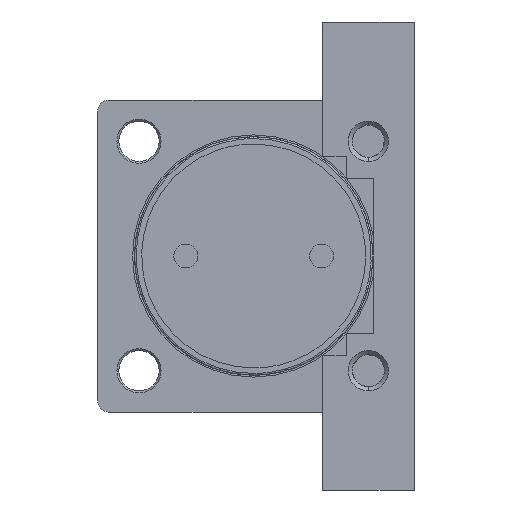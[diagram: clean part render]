
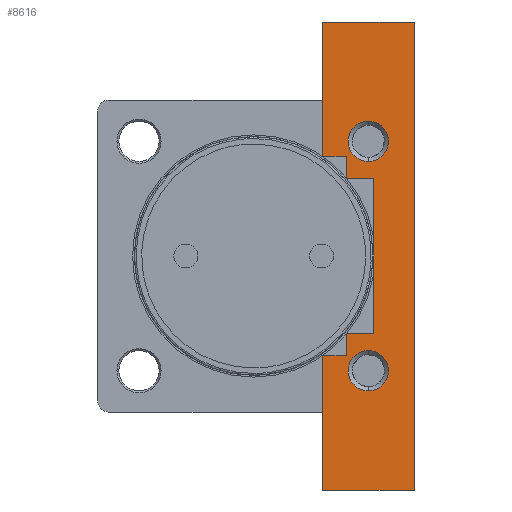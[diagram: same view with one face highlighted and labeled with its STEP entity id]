
A CAD part, left-side view. The second image highlights one B-rep face of the part: STEP entity #8616.
In plain terms, the highlighted planar face has unit normal (1, 0, 0).
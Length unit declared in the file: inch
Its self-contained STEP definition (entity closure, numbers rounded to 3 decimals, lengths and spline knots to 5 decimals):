
#4 = EDGE_CURVE ( 'NONE', #483, #4248, #3608, .T. ) ;
#31 = DIRECTION ( 'NONE',  ( 1., 0., 0. ) ) ;
#50 = EDGE_LOOP ( 'NONE', ( #11608, #6839, #5111, #3039, #8967, #12092, #876, #3980, #8933, #9379, #8016, #8911 ) ) ;
#55 = CARTESIAN_POINT ( 'NONE',  ( -3.01181, -1.47638, 5.01969 ) ) ;
#172 = EDGE_CURVE ( 'NONE', #9188, #3477, #13405, .T. ) ;
#236 = EDGE_CURVE ( 'NONE', #4248, #9188, #11237, .T. ) ;
#343 = EDGE_CURVE ( 'NONE', #3477, #6201, #9805, .T. ) ;
#373 = CARTESIAN_POINT ( 'NONE',  ( -3.01181, -1.47638, 5.01969 ) ) ;
#483 = VERTEX_POINT ( 'NONE', #5390 ) ;
#521 = EDGE_CURVE ( 'NONE', #6201, #7957, #7476, .T. ) ;
#722 = VECTOR ( 'NONE', #958, 39.37008 ) ;
#816 = CIRCLE ( 'NONE', #1079, 0.43307 ) ;
#818 = CARTESIAN_POINT ( 'NONE',  ( -3.01181, -3.44488, -2.12598 ) ) ;
#876 = ORIENTED_EDGE ( 'NONE', *, *, #4, .T. ) ;
#910 = EDGE_CURVE ( 'NONE', #6520, #5554, #3882, .T. ) ;
#923 = VERTEX_POINT ( 'NONE', #13781 ) ;
#958 = DIRECTION ( 'NONE',  ( 0., -1., 0. ) ) ;
#1001 = EDGE_CURVE ( 'NONE', #7957, #5460, #3020, .T. ) ;
#1062 = CIRCLE ( 'NONE', #12010, 0.43307 ) ;
#1079 = AXIS2_PLACEMENT_3D ( 'NONE', #1979, #9442, #3056 ) ;
#1707 = LINE ( 'NONE', #12599, #8894 ) ;
#1873 = VERTEX_POINT ( 'NONE', #13552 ) ;
#1979 = CARTESIAN_POINT ( 'NONE',  ( -3.01181, -2.46063, 2.46063 ) ) ;
#2034 = AXIS2_PLACEMENT_3D ( 'NONE', #2588, #2577, #2574 ) ;
#2283 = CARTESIAN_POINT ( 'NONE',  ( -3.01181, -2.57874, -1.65354 ) ) ;
#2296 = CARTESIAN_POINT ( 'NONE',  ( -3.01181, -3.44488, -1.65354 ) ) ;
#2357 = CARTESIAN_POINT ( 'NONE',  ( -3.01181, -1.47638, -5.01969 ) ) ;
#2475 = LINE ( 'NONE', #373, #3035 ) ;
#2574 = DIRECTION ( 'NONE',  ( 0., 0., 1. ) ) ;
#2577 = DIRECTION ( 'NONE',  ( -1., 0., 0. ) ) ;
#2588 = CARTESIAN_POINT ( 'NONE',  ( -3.01181, -2.46063, 2.46063 ) ) ;
#2738 = EDGE_CURVE ( 'NONE', #6568, #10059, #9821, .T. ) ;
#2808 = VERTEX_POINT ( 'NONE', #2357 ) ;
#2837 = DIRECTION ( 'NONE',  ( 0., 0., 1. ) ) ;
#2897 = LINE ( 'NONE', #10306, #11061 ) ;
#2910 = DIRECTION ( 'NONE',  ( 0., 1., 0. ) ) ;
#2992 = CARTESIAN_POINT ( 'NONE',  ( -3.01181, -3.44488, -5.01969 ) ) ;
#3016 = DIRECTION ( 'NONE',  ( 0., -1., 0. ) ) ;
#3020 = LINE ( 'NONE', #9505, #3991 ) ;
#3035 = VECTOR ( 'NONE', #8546, 39.37008 ) ;
#3039 = ORIENTED_EDGE ( 'NONE', *, *, #910, .F. ) ;
#3056 = DIRECTION ( 'NONE',  ( 0., 0., 1. ) ) ;
#3260 = CARTESIAN_POINT ( 'NONE',  ( -3.01181, -1.98819, 5.01969 ) ) ;
#3477 = VERTEX_POINT ( 'NONE', #2283 ) ;
#3601 = EDGE_CURVE ( 'NONE', #923, #11211, #7089, .T. ) ;
#3608 = LINE ( 'NONE', #818, #722 ) ;
#3729 = EDGE_CURVE ( 'NONE', #5460, #1873, #2897, .T. ) ;
#3746 = EDGE_CURVE ( 'NONE', #1873, #6691, #11398, .T. ) ;
#3882 = LINE ( 'NONE', #13663, #3921 ) ;
#3921 = VECTOR ( 'NONE', #13792, 39.37008 ) ;
#3968 = CARTESIAN_POINT ( 'NONE',  ( -3.01181, -2.46063, 2.02756 ) ) ;
#3980 = ORIENTED_EDGE ( 'NONE', *, *, #236, .T. ) ;
#3991 = VECTOR ( 'NONE', #7869, 39.37008 ) ;
#4102 = CARTESIAN_POINT ( 'NONE',  ( -3.01181, -2.57874, 5.01969 ) ) ;
#4176 = DIRECTION ( 'NONE',  ( 0., 0., 1. ) ) ;
#4248 = VERTEX_POINT ( 'NONE', #6017 ) ;
#4269 = DIRECTION ( 'NONE',  ( 0., 0., 1. ) ) ;
#4334 = EDGE_CURVE ( 'NONE', #6520, #2808, #7581, .T. ) ;
#4338 = CARTESIAN_POINT ( 'NONE',  ( -3.01181, -3.44488, 5.01969 ) ) ;
#4628 = EDGE_CURVE ( 'NONE', #6691, #5554, #1707, .T. ) ;
#4677 = CARTESIAN_POINT ( 'NONE',  ( -3.01181, -1.98819, -1.65354 ) ) ;
#4905 = ORIENTED_EDGE ( 'NONE', *, *, #5929, .T. ) ;
#5064 = CARTESIAN_POINT ( 'NONE',  ( -3.01181, -3.44488, -5.01969 ) ) ;
#5111 = ORIENTED_EDGE ( 'NONE', *, *, #4628, .T. ) ;
#5319 = CARTESIAN_POINT ( 'NONE',  ( -3.01181, -2.46063, -2.46063 ) ) ;
#5390 = CARTESIAN_POINT ( 'NONE',  ( -3.01181, -1.47638, -2.12598 ) ) ;
#5460 = VERTEX_POINT ( 'NONE', #9108 ) ;
#5554 = VERTEX_POINT ( 'NONE', #6147 ) ;
#5700 = DIRECTION ( 'NONE',  ( 0., 1., 0. ) ) ;
#5787 = CARTESIAN_POINT ( 'NONE',  ( -3.01181, -3.44488, 1.65354 ) ) ;
#5929 = EDGE_CURVE ( 'NONE', #11211, #923, #1062, .T. ) ;
#6017 = CARTESIAN_POINT ( 'NONE',  ( -3.01181, -1.98819, -2.12598 ) ) ;
#6147 = CARTESIAN_POINT ( 'NONE',  ( -3.01181, -3.44488, 5.01969 ) ) ;
#6201 = VERTEX_POINT ( 'NONE', #13116 ) ;
#6209 = ORIENTED_EDGE ( 'NONE', *, *, #2738, .T. ) ;
#6372 = PLANE ( 'NONE',  #7522 ) ;
#6520 = VERTEX_POINT ( 'NONE', #5064 ) ;
#6568 = VERTEX_POINT ( 'NONE', #3968 ) ;
#6691 = VERTEX_POINT ( 'NONE', #55 ) ;
#6839 = ORIENTED_EDGE ( 'NONE', *, *, #3746, .T. ) ;
#7089 = CIRCLE ( 'NONE', #9447, 0.43307 ) ;
#7307 = DIRECTION ( 'NONE',  ( 0., -1., 0. ) ) ;
#7430 = VECTOR ( 'NONE', #5700, 39.37008 ) ;
#7476 = LINE ( 'NONE', #5787, #7430 ) ;
#7522 = AXIS2_PLACEMENT_3D ( 'NONE', #4338, #31, #7539 ) ;
#7539 = DIRECTION ( 'NONE',  ( 0., 0., -1. ) ) ;
#7581 = LINE ( 'NONE', #2992, #10397 ) ;
#7703 = ORIENTED_EDGE ( 'NONE', *, *, #8458, .T. ) ;
#7799 = FACE_OUTER_BOUND ( 'NONE', #50, .T. ) ;
#7821 = ORIENTED_EDGE ( 'NONE', *, *, #3601, .T. ) ;
#7869 = DIRECTION ( 'NONE',  ( 0., 0., 1. ) ) ;
#7957 = VERTEX_POINT ( 'NONE', #8334 ) ;
#8016 = ORIENTED_EDGE ( 'NONE', *, *, #521, .T. ) ;
#8110 = EDGE_LOOP ( 'NONE', ( #7703, #6209 ) ) ;
#8143 = CARTESIAN_POINT ( 'NONE',  ( -3.01181, -2.46063, -2.46063 ) ) ;
#8334 = CARTESIAN_POINT ( 'NONE',  ( -3.01181, -1.98819, 1.65354 ) ) ;
#8458 = EDGE_CURVE ( 'NONE', #10059, #6568, #816, .T. ) ;
#8546 = DIRECTION ( 'NONE',  ( 0., 0., 1. ) ) ;
#8616 = ADVANCED_FACE ( 'NONE', ( #13470, #9310, #7799 ), #6372, .T. ) ;
#8894 = VECTOR ( 'NONE', #7307, 39.37008 ) ;
#8911 = ORIENTED_EDGE ( 'NONE', *, *, #1001, .T. ) ;
#8933 = ORIENTED_EDGE ( 'NONE', *, *, #172, .T. ) ;
#8967 = ORIENTED_EDGE ( 'NONE', *, *, #4334, .T. ) ;
#9108 = CARTESIAN_POINT ( 'NONE',  ( -3.01181, -1.98819, 2.12598 ) ) ;
#9188 = VERTEX_POINT ( 'NONE', #4677 ) ;
#9310 = FACE_BOUND ( 'NONE', #11629, .T. ) ;
#9379 = ORIENTED_EDGE ( 'NONE', *, *, #343, .T. ) ;
#9442 = DIRECTION ( 'NONE',  ( -1., 0., 0. ) ) ;
#9447 = AXIS2_PLACEMENT_3D ( 'NONE', #5319, #11685, #4269 ) ;
#9505 = CARTESIAN_POINT ( 'NONE',  ( -3.01181, -1.98819, 5.01969 ) ) ;
#9535 = CARTESIAN_POINT ( 'NONE',  ( -3.01181, -2.46063, -2.02756 ) ) ;
#9805 = LINE ( 'NONE', #4102, #10249 ) ;
#9821 = CIRCLE ( 'NONE', #2034, 0.43307 ) ;
#9942 = CARTESIAN_POINT ( 'NONE',  ( -3.01181, -1.47638, 5.01969 ) ) ;
#9992 = DIRECTION ( 'NONE',  ( 0., 0., 1. ) ) ;
#10059 = VERTEX_POINT ( 'NONE', #11193 ) ;
#10074 = DIRECTION ( 'NONE',  ( 0., 1., 0. ) ) ;
#10249 = VECTOR ( 'NONE', #4176, 39.37008 ) ;
#10306 = CARTESIAN_POINT ( 'NONE',  ( -3.01181, -3.44488, 2.12598 ) ) ;
#10397 = VECTOR ( 'NONE', #2910, 39.37008 ) ;
#10647 = VECTOR ( 'NONE', #2837, 39.37008 ) ;
#10752 = VECTOR ( 'NONE', #9992, 39.37008 ) ;
#11061 = VECTOR ( 'NONE', #10074, 39.37008 ) ;
#11193 = CARTESIAN_POINT ( 'NONE',  ( -3.01181, -2.46063, 2.8937 ) ) ;
#11211 = VERTEX_POINT ( 'NONE', #9535 ) ;
#11237 = LINE ( 'NONE', #3260, #10647 ) ;
#11342 = DIRECTION ( 'NONE',  ( 0., 0., 1. ) ) ;
#11355 = DIRECTION ( 'NONE',  ( -1., 0., 0. ) ) ;
#11398 = LINE ( 'NONE', #9942, #10752 ) ;
#11426 = VECTOR ( 'NONE', #3016, 39.37008 ) ;
#11608 = ORIENTED_EDGE ( 'NONE', *, *, #3729, .T. ) ;
#11629 = EDGE_LOOP ( 'NONE', ( #4905, #7821 ) ) ;
#11685 = DIRECTION ( 'NONE',  ( -1., 0., 0. ) ) ;
#12010 = AXIS2_PLACEMENT_3D ( 'NONE', #8143, #11355, #11342 ) ;
#12018 = EDGE_CURVE ( 'NONE', #2808, #483, #2475, .T. ) ;
#12092 = ORIENTED_EDGE ( 'NONE', *, *, #12018, .T. ) ;
#12599 = CARTESIAN_POINT ( 'NONE',  ( -3.01181, -3.44488, 5.01969 ) ) ;
#13116 = CARTESIAN_POINT ( 'NONE',  ( -3.01181, -2.57874, 1.65354 ) ) ;
#13405 = LINE ( 'NONE', #2296, #11426 ) ;
#13470 = FACE_BOUND ( 'NONE', #8110, .T. ) ;
#13552 = CARTESIAN_POINT ( 'NONE',  ( -3.01181, -1.47638, 2.12598 ) ) ;
#13663 = CARTESIAN_POINT ( 'NONE',  ( -3.01181, -3.44488, 5.01969 ) ) ;
#13781 = CARTESIAN_POINT ( 'NONE',  ( -3.01181, -2.46063, -2.8937 ) ) ;
#13792 = DIRECTION ( 'NONE',  ( 0., 0., 1. ) ) ;
